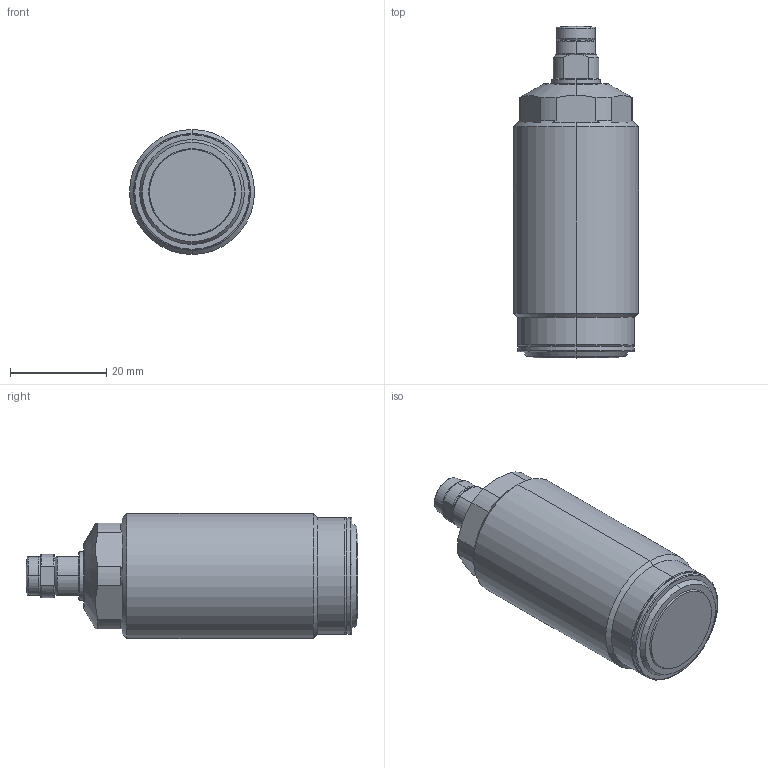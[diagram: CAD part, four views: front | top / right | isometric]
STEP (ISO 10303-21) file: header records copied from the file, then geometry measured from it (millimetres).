
FILE_DESCRIPTION(/* description */ (''),/* implementation_level */ '2;1');
FILE_NAME(/* name */ 'TSC00-M.stp',/* time_stamp */ '2025-01-11T08:12:05+08:00',/* author */ (''),/* organization */ (''),/* preprocessor_version */ 'ST-DEVELOPER v16.7',/* originating_system */ 'SIEMENS PLM Software NX 12.0',/* authorisation */ '');
FILE_SCHEMA (('AUTOMOTIVE_DESIGN { 1 0 10303 214 3 1 1 1 }'));
Length unit declared in the file: millimetre
Products named in the file (8): XLD-M6SP_pad; XLD-M6SP_pin; XLD-M6SP_contactbolt; XLD-M6SP_Oring; TSC00-M02; TSC00-M01; XLDM6SP; TSC00_stp
Assembly tree (7 placements, depth 3):
  TSC00_stp
    TSC00-M01
    TSC00-M02
    XLDM6SP
      XLD-M6SP_Oring
      XLD-M6SP_contactbolt
      XLD-M6SP_pin
      XLD-M6SP_pad
Bounding box: 26 x 69 x 26 mm (x, y, z)
Volume: 28653 mm3; surface area: 7001 mm2
Topology: 6 solids, 6 shells, 169 faces, 393 edges, 240 vertices
Faces by surface type: cylinder 54, cone 40, plane 39, torus 32, sphere 4
Entity records: 5457 total; most frequent: CARTESIAN_POINT 1332, DIRECTION 905, ORIENTED_EDGE 786, EDGE_CURVE 393, AXIS2_PLACEMENT_3D 391, VERTEX_POINT 240, CIRCLE 214, EDGE_LOOP 185
